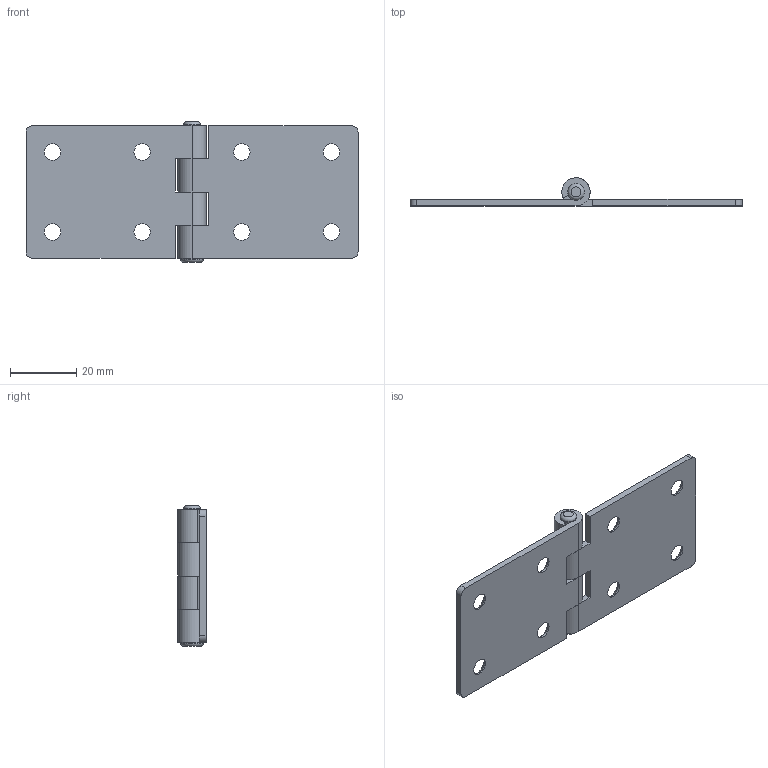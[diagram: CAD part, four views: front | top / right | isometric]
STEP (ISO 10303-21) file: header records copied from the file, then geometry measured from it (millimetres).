
FILE_DESCRIPTION(/* description */ (''),/* implementation_level */ '2;1');
FILE_NAME(/* name */ '\\NAS\db20\HH40100-20\DR_HH40100-20.stp',/* time_stamp */ '2017-08-16T16:33:12+09:00',/* author */ ('user'),/* organization */ (''),/* preprocessor_version */ 'ST-DEVELOPER v15.6',/* originating_system */ 'Autodesk Inventor 2015',/* authorisation */ '');
FILE_SCHEMA (('AUTOMOTIVE_DESIGN { 1 0 10303 214 3 1 1 }'));
Length unit declared in the file: millimetre
Products named in the file (1): DR_HH40100-20
Bounding box: 100 x 8.49 x 42.4 mm (x, y, z)
Volume: 9143.3 mm3; surface area: 10477.2 mm2
Topology: 3 solids, 3 shells, 61 faces, 157 edges, 104 vertices
Faces by surface type: plane 28, cylinder 23, cone 8, torus 2
Full cylindrical faces by diameter (mm): 4.5 x1, 5 x9, 7 x1
Entity records: 1748 total; most frequent: DIRECTION 308, CARTESIAN_POINT 286, ORIENTED_EDGE 256, EDGE_CURVE 128, AXIS2_PLACEMENT_3D 118, EDGE_LOOP 100, VERTEX_POINT 96, LINE 72
